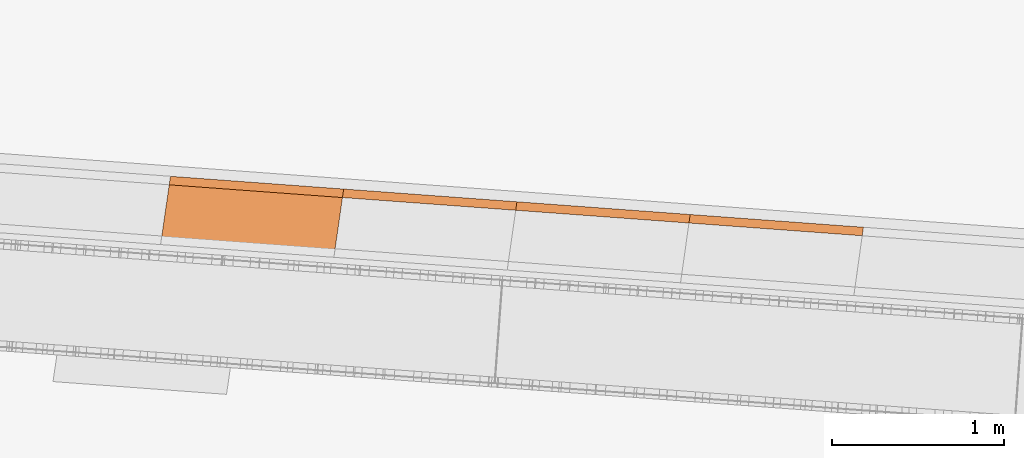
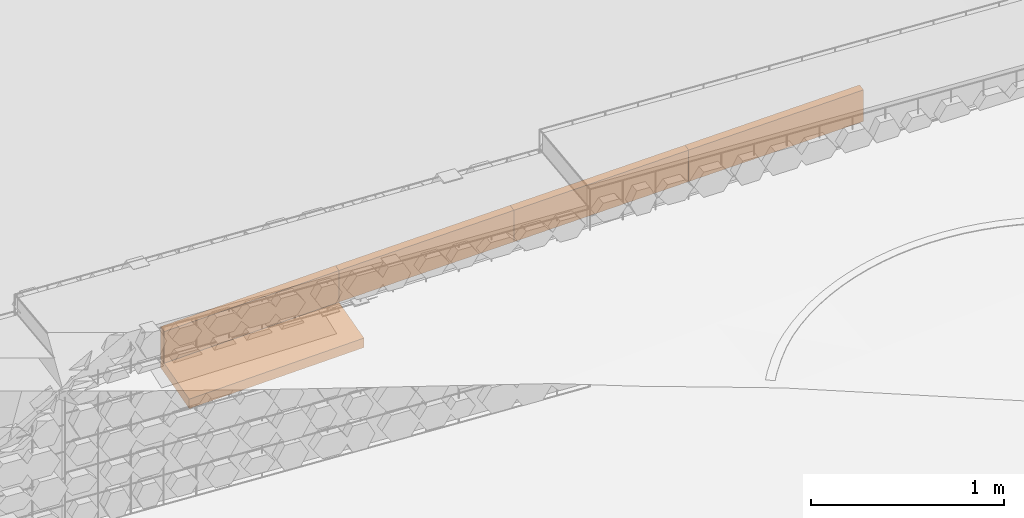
# Not in any storey, part 17 of 46: 5 proxies.
"""IFC4 model written with IfcOpenShell, lengths in metres."""

from ifc_helpers import new_model, si_unit, direction, frame, origin_with_axes, place, context, subcontext, project, spatial, polygons, material, element, save


model = new_model("IFC4")

# Units and contexts
model_context = context("Model", 3, precision=1e-05, world=origin_with_axes(), true_north=direction((0.0, 1.0)))
body_context = subcontext(model_context, "Body", "Model", "MODEL_VIEW")
ifc_project = project(units=[si_unit("VOLUMEUNIT", "CUBIC_METRE"), si_unit("LENGTHUNIT", "METRE"), si_unit("AREAUNIT", "SQUARE_METRE")], contexts=[model_context])

# Site
site_placement = place(None, origin_with_axes())
site = spatial("IfcSite", under=ifc_project, at=site_placement, Name="Lares · Rua das Mercês · artigo 4771")

# Proxies
ifc_material = material(Name="Caleiras · betão", Category="concrete")
proxy_1_placement = place(site_placement, frame((0.0, 0.0, 0.0), z_axis=(0.0, 0.0, 1.0), x_axis=(1.0, -1.03767253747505e-17, 0.0)))
element("IfcBuildingElementProxy", 1, at=proxy_1_placement, inside=site, material=ifc_material, Name="Acesso · canal lateral", ObjectType="Acesso · canal lateral", PredefinedType="USERDEFINED", context=body_context, shape_type="Tessellation", body=[
    polygons([(50.5884625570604, 2.45178550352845, 13.48), (50.6456090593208, 2.84768230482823, 13.48), (51.6502192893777, 2.77380792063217, 13.56), (51.5930727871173, 2.37791111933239, 13.56), (50.5884625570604, 2.45178550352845, 13.54), (50.6456090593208, 2.84768230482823, 13.54), (51.6502192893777, 2.77380792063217, 13.62), (51.5930727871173, 2.37791111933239, 13.62)], [[[4, 3, 2, 1]], [[5, 6, 7, 8]], [[1, 2, 6, 5]], [[2, 3, 7, 6]], [[3, 4, 8, 7]], [[4, 1, 5, 8]]]),
])
proxy_2_placement = place(site_placement, frame((0.0, 0.0, 0.0), z_axis=(0.0, 0.0, 1.0), x_axis=(1.0, -1.03767253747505e-17, 0.0)))
element("IfcBuildingElementProxy", 2, at=proxy_2_placement, inside=site, material=ifc_material, Name="Acesso · canal lateral", ObjectType="Acesso · canal lateral", PredefinedType="USERDEFINED", context=body_context, shape_type="Tessellation", body=[
    polygons([(50.6384657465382, 2.79819520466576, 13.54), (50.6456090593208, 2.84768230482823, 13.54), (51.6502192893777, 2.77380792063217, 13.62), (51.6430759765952, 2.7243208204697, 13.62), (50.6384657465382, 2.79819520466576, 13.74), (50.6456090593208, 2.84768230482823, 13.74), (51.6502192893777, 2.77380792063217, 13.82), (51.6430759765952, 2.7243208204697, 13.82)], [[[4, 3, 2, 1]], [[5, 6, 7, 8]], [[1, 2, 6, 5]], [[2, 3, 7, 6]], [[3, 4, 8, 7]], [[4, 1, 5, 8]]]),
])
proxy_3_placement = place(site_placement, frame((0.0, 0.0, 0.0), z_axis=(0.0, 0.0, 1.0), x_axis=(1.0, -1.03767253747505e-17, 0.0)))
element("IfcBuildingElementProxy", 3, at=proxy_3_placement, inside=site, material=ifc_material, Name="Acesso · canal lateral", ObjectType="Acesso · canal lateral", PredefinedType="USERDEFINED", context=body_context, shape_type="Tessellation", body=[
    polygons([(51.6428999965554, 2.72434611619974, 13.62), (51.6499846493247, 2.77384164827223, 13.62), (52.6546023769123, 2.69996655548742, 13.6944580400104), (52.647517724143, 2.65047102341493, 13.6944580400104), (51.6428999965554, 2.72434611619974, 13.82), (51.6499846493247, 2.77384164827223, 13.82), (52.6546023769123, 2.69996655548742, 13.8944580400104), (52.647517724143, 2.65047102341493, 13.8944580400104)], [[[4, 3, 2, 1]], [[5, 6, 7, 8]], [[1, 2, 6, 5]], [[2, 3, 7, 6]], [[3, 4, 8, 7]], [[4, 1, 5, 8]]]),
])
proxy_4_placement = place(site_placement, frame((0.0, 0.0, 0.0), z_axis=(0.0, 0.0, 1.0), x_axis=(1.0, -1.03767253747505e-17, 0.0)))
element("IfcBuildingElementProxy", 4, at=proxy_4_placement, inside=site, material=ifc_material, Name="Acesso · canal lateral", ObjectType="Acesso · canal lateral", PredefinedType="USERDEFINED", context=body_context, shape_type="Tessellation", body=[
    polygons([(52.6473373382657, 2.65049673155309, 13.6944580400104), (52.6543618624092, 2.70000083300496, 13.6944580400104), (53.6589873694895, 2.62612501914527, 13.7689160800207), (53.6519628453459, 2.5766209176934, 13.7689160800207), (52.6473373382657, 2.65049673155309, 13.8944580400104), (52.6543618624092, 2.70000083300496, 13.8944580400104), (53.6589873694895, 2.62612501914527, 13.9689160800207), (53.6519628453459, 2.5766209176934, 13.9689160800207)], [[[4, 3, 2, 1]], [[5, 6, 7, 8]], [[1, 2, 6, 5]], [[2, 3, 7, 6]], [[3, 4, 8, 7]], [[4, 1, 5, 8]]]),
])
proxy_5_placement = place(site_placement, frame((0.0, 0.0, 0.0), z_axis=(0.0, 0.0, 1.0), x_axis=(1.0, -1.03767253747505e-17, 0.0)))
element("IfcBuildingElementProxy", 5, at=proxy_5_placement, inside=site, material=ifc_material, Name="Acesso · canal lateral", ObjectType="Acesso · canal lateral", PredefinedType="USERDEFINED", context=body_context, shape_type="Tessellation", body=[
    polygons([(53.6517778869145, 2.57664704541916, 13.7689160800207), (53.6587407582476, 2.62615985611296, 13.7689160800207), (54.6633743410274, 2.55228330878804, 13.8433741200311), (54.6564114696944, 2.50277049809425, 13.8433741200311), (53.6517778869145, 2.57664704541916, 13.9689160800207), (53.6587407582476, 2.62615985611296, 13.9689160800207), (54.6633743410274, 2.55228330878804, 14.0433741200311), (54.6564114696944, 2.50277049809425, 14.0433741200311)], [[[4, 3, 2, 1]], [[5, 6, 7, 8]], [[1, 2, 6, 5]], [[2, 3, 7, 6]], [[3, 4, 8, 7]], [[4, 1, 5, 8]]]),
])

save(model, "model.ifc")
